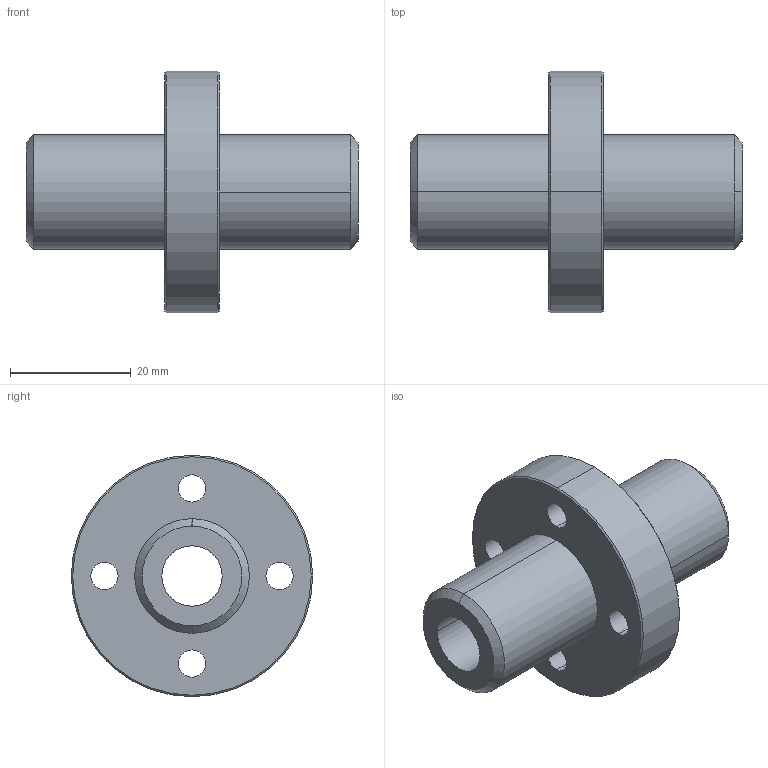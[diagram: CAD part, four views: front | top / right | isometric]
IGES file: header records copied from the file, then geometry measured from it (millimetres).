
Start section: 3D InterOp IGES (Version 21 0 1), Spatial Corp. Copyright (c) 1999-2007.
Global section: file name: CFPJR10.igs; native system: Spatial Corp.; preprocessor: 3D InterOp GENERIC/IGES 3.0; author: Noname; organization: Noname; date: 20220324.131913; units: millimetre
Bounding box: 55 x 40 x 40 mm (x, y, z)
Surface area: 8368 mm2 (no closed solid volume)
Topology: 0 solids, 0 shells, 40 faces, 180 edges, 180 vertices
Faces by surface type: revolution 32, extrusion 8
